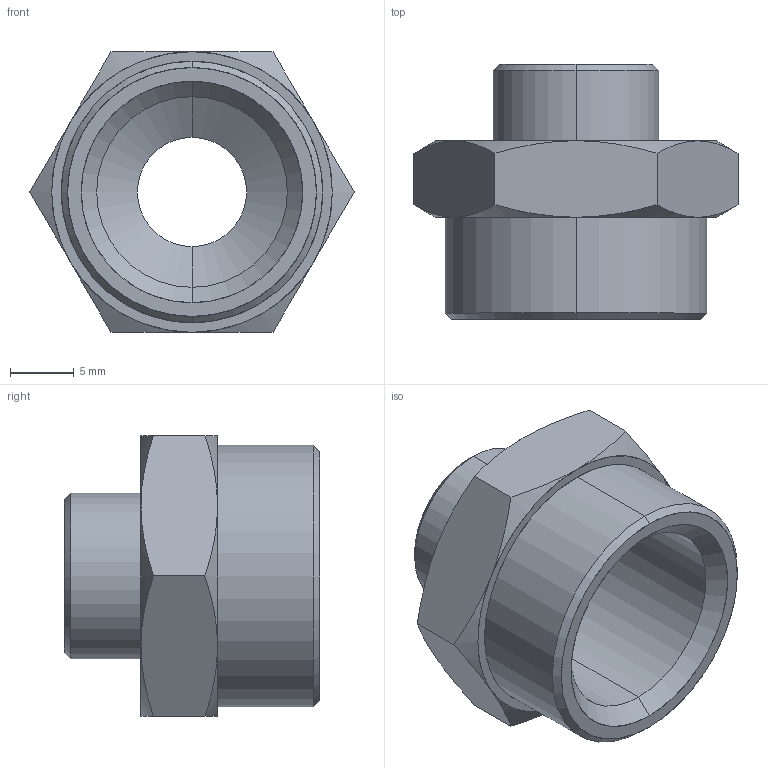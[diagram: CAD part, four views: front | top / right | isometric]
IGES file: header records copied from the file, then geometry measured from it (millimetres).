
Start section: SolidWorks IGES file using analytic representation for surfaces
Global section: file name: K:\Disegni Esecutivi\Accessori\3010\ASSIEMI_.IGES_3010\0301000013W00.IGS; native system: SolidWorks 2007; preprocessor: SolidWorks 2007; author: cad02; date: 071019.142009; units: millimetre
Bounding box: 25.4 x 20 x 22 mm (x, y, z)
Surface area: 2563 mm2 (no closed solid volume)
Topology: 0 solids, 0 shells, 40 faces, 576 edges, 576 vertices
Faces by surface type: revolution 30, bspline 10
